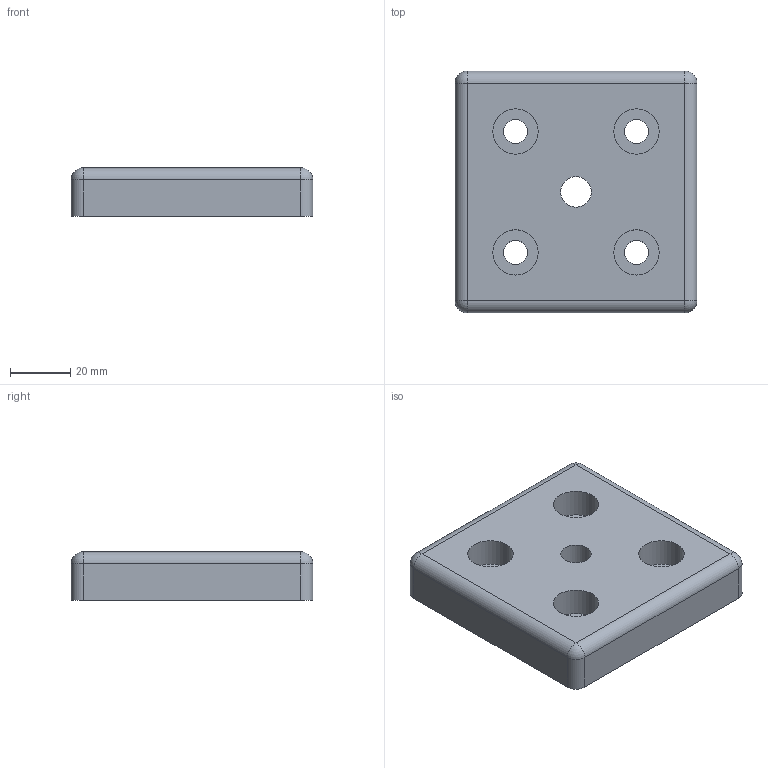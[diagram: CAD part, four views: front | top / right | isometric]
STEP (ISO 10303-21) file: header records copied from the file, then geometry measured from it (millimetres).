
FILE_DESCRIPTION(/* description */ ('STEP AP214'),/* implementation_level */ '2;1');
FILE_NAME(/* name */ 'Transport and Base Plate GN 80i-80808M12-A-ZS',/* time_stamp */ '2024-08-28T12:26:50+02:00',/* author */ ('License CC BY-ND 4.0'),/* organization */ ('CADENAS'),/* preprocessor_version */ 'ST-DEVELOPER v19.3',/* originating_system */ 'PARTsolutions',/* authorisation */ ' ');
FILE_SCHEMA (('AUTOMOTIVE_DESIGN {1 0 10303 214 3 1 1}'));
Length unit declared in the file: millimetre
Products named in the file (1): Transport and Base Plate GN 80i-80808M12-A-ZS
Bounding box: 80 x 80 x 16 mm (x, y, z)
Volume: 91818.9 mm3; surface area: 19627.5 mm2
Topology: 1 solids, 1 shells, 31 faces, 67 edges, 38 vertices
Faces by surface type: cylinder 17, plane 10, sphere 4
Full cylindrical faces by diameter (mm): 8 x4, 10.106 x1, 15 x4
Entity records: 820 total; most frequent: DIRECTION 152, CARTESIAN_POINT 124, ORIENTED_EDGE 108, AXIS2_PLACEMENT_3D 66, EDGE_CURVE 54, EDGE_LOOP 54, FACE_BOUND 54, VERTEX_POINT 38
